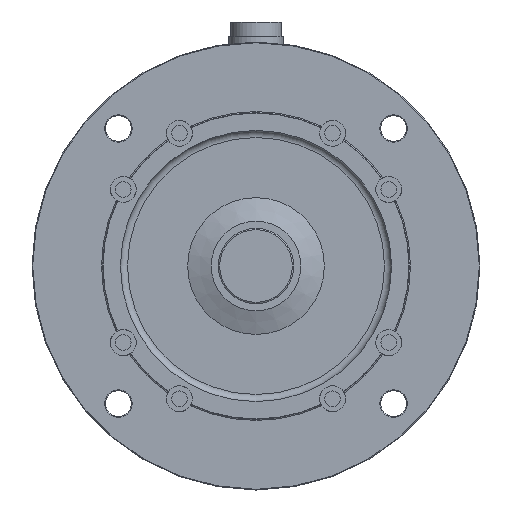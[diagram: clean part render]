
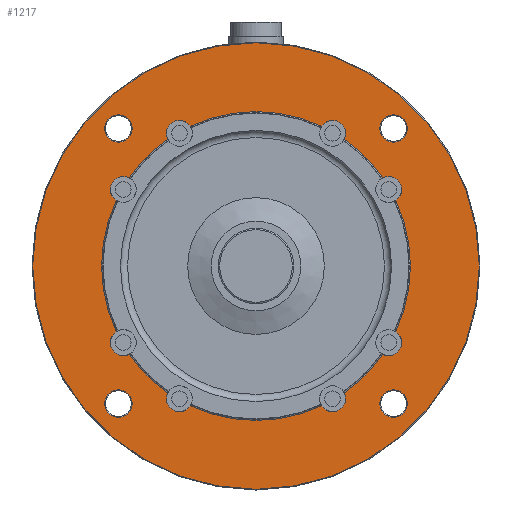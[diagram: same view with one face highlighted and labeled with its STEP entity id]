
A CAD part, front view. The second image highlights one B-rep face of the part: STEP entity #1217.
In plain terms, the highlighted planar face has unit normal (0, -1, 0).
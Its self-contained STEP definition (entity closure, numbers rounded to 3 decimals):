
#362=PLANE('',#4938);
#449=FACE_BOUND('',#1778,.T.);
#450=FACE_BOUND('',#1779,.T.);
#451=FACE_BOUND('',#1780,.T.);
#452=FACE_BOUND('',#1781,.T.);
#453=FACE_BOUND('',#1782,.T.);
#1217=ADVANCED_FACE('',(#449,#450,#451,#452,#453,#1556),#362,.T.);
#1556=FACE_OUTER_BOUND('',#1783,.T.);
#1778=EDGE_LOOP('',(#2418));
#1779=EDGE_LOOP('',(#2419));
#1780=EDGE_LOOP('',(#2420));
#1781=EDGE_LOOP('',(#2421));
#1782=EDGE_LOOP('',(#2422,#2423,#2424,#2425,#2426,#2427,#2428,#2429,#2430,
#2431,#2432,#2433,#2434,#2435,#2436,#2437));
#1783=EDGE_LOOP('',(#2438));
#2418=ORIENTED_EDGE('',*,*,#3971,.T.);
#2419=ORIENTED_EDGE('',*,*,#3972,.T.);
#2420=ORIENTED_EDGE('',*,*,#3973,.T.);
#2421=ORIENTED_EDGE('',*,*,#3974,.T.);
#2422=ORIENTED_EDGE('',*,*,#3975,.F.);
#2423=ORIENTED_EDGE('',*,*,#3914,.T.);
#2424=ORIENTED_EDGE('',*,*,#3976,.F.);
#2425=ORIENTED_EDGE('',*,*,#3977,.T.);
#2426=ORIENTED_EDGE('',*,*,#3978,.F.);
#2427=ORIENTED_EDGE('',*,*,#3955,.T.);
#2428=ORIENTED_EDGE('',*,*,#3979,.F.);
#2429=ORIENTED_EDGE('',*,*,#3935,.T.);
#2430=ORIENTED_EDGE('',*,*,#3980,.F.);
#2431=ORIENTED_EDGE('',*,*,#3960,.T.);
#2432=ORIENTED_EDGE('',*,*,#3981,.F.);
#2433=ORIENTED_EDGE('',*,*,#3948,.T.);
#2434=ORIENTED_EDGE('',*,*,#3982,.F.);
#2435=ORIENTED_EDGE('',*,*,#3926,.T.);
#2436=ORIENTED_EDGE('',*,*,#3983,.F.);
#2437=ORIENTED_EDGE('',*,*,#3938,.T.);
#2438=ORIENTED_EDGE('',*,*,#3984,.T.);
#3468=VERTEX_POINT('',#7221);
#3469=VERTEX_POINT('',#7222);
#3480=VERTEX_POINT('',#7281);
#3481=VERTEX_POINT('',#7282);
#3488=VERTEX_POINT('',#7347);
#3489=VERTEX_POINT('',#7349);
#3490=VERTEX_POINT('',#7386);
#3491=VERTEX_POINT('',#7388);
#3498=VERTEX_POINT('',#7440);
#3499=VERTEX_POINT('',#7442);
#3504=VERTEX_POINT('',#7488);
#3505=VERTEX_POINT('',#7490);
#3508=VERTEX_POINT('',#7518);
#3509=VERTEX_POINT('',#7519);
#3518=VERTEX_POINT('',#7575);
#3519=VERTEX_POINT('',#7577);
#3520=VERTEX_POINT('',#7579);
#3521=VERTEX_POINT('',#7581);
#3522=VERTEX_POINT('',#7584);
#3523=VERTEX_POINT('',#7586);
#3524=VERTEX_POINT('',#7594);
#3914=EDGE_CURVE('',#3468,#3469,#4471,.T.);
#3926=EDGE_CURVE('',#3480,#3481,#4477,.T.);
#3935=EDGE_CURVE('',#3489,#3488,#4481,.T.);
#3938=EDGE_CURVE('',#3491,#3490,#4482,.T.);
#3948=EDGE_CURVE('',#3499,#3498,#4486,.T.);
#3955=EDGE_CURVE('',#3505,#3504,#4489,.T.);
#3960=EDGE_CURVE('',#3508,#3509,#4491,.T.);
#3971=EDGE_CURVE('',#3518,#3518,#4500,.T.);
#3972=EDGE_CURVE('',#3519,#3519,#4501,.T.);
#3973=EDGE_CURVE('',#3520,#3520,#4502,.T.);
#3974=EDGE_CURVE('',#3521,#3521,#4503,.T.);
#3975=EDGE_CURVE('',#3468,#3490,#4504,.T.);
#3976=EDGE_CURVE('',#3522,#3469,#4505,.T.);
#3977=EDGE_CURVE('',#3522,#3523,#4506,.T.);
#3978=EDGE_CURVE('',#3505,#3523,#4507,.T.);
#3979=EDGE_CURVE('',#3489,#3504,#4508,.T.);
#3980=EDGE_CURVE('',#3508,#3488,#4509,.T.);
#3981=EDGE_CURVE('',#3499,#3509,#4510,.T.);
#3982=EDGE_CURVE('',#3480,#3498,#4511,.T.);
#3983=EDGE_CURVE('',#3491,#3481,#4512,.T.);
#3984=EDGE_CURVE('',#3524,#3524,#4513,.T.);
#4471=CIRCLE('',#4879,65.5);
#4477=CIRCLE('',#4888,65.5);
#4481=CIRCLE('',#4894,65.5);
#4482=CIRCLE('',#4896,65.5);
#4486=CIRCLE('',#4903,65.5);
#4489=CIRCLE('',#4908,65.5);
#4491=CIRCLE('',#4912,65.5);
#4500=CIRCLE('',#4924,5.8);
#4501=CIRCLE('',#4925,5.8);
#4502=CIRCLE('',#4926,5.8);
#4503=CIRCLE('',#4927,5.8);
#4504=CIRCLE('',#4928,5.5);
#4505=CIRCLE('',#4929,5.5);
#4506=CIRCLE('',#4930,65.5);
#4507=CIRCLE('',#4931,5.5);
#4508=CIRCLE('',#4932,5.5);
#4509=CIRCLE('',#4933,5.5);
#4510=CIRCLE('',#4934,5.5);
#4511=CIRCLE('',#4935,5.5);
#4512=CIRCLE('',#4936,5.5);
#4513=CIRCLE('',#4937,94.7);
#4879=AXIS2_PLACEMENT_3D('',#7220,#5621,#5622);
#4888=AXIS2_PLACEMENT_3D('',#7280,#5643,#5644);
#4894=AXIS2_PLACEMENT_3D('',#7348,#5657,#5658);
#4896=AXIS2_PLACEMENT_3D('',#7387,#5661,#5662);
#4903=AXIS2_PLACEMENT_3D('',#7441,#5679,#5680);
#4908=AXIS2_PLACEMENT_3D('',#7489,#5691,#5692);
#4912=AXIS2_PLACEMENT_3D('',#7517,#5701,#5702);
#4924=AXIS2_PLACEMENT_3D('',#7574,#5725,#5726);
#4925=AXIS2_PLACEMENT_3D('',#7576,#5727,#5728);
#4926=AXIS2_PLACEMENT_3D('',#7578,#5729,#5730);
#4927=AXIS2_PLACEMENT_3D('',#7580,#5731,#5732);
#4928=AXIS2_PLACEMENT_3D('',#7582,#5733,#5734);
#4929=AXIS2_PLACEMENT_3D('',#7583,#5735,#5736);
#4930=AXIS2_PLACEMENT_3D('',#7585,#5737,#5738);
#4931=AXIS2_PLACEMENT_3D('',#7587,#5739,#5740);
#4932=AXIS2_PLACEMENT_3D('',#7588,#5741,#5742);
#4933=AXIS2_PLACEMENT_3D('',#7589,#5743,#5744);
#4934=AXIS2_PLACEMENT_3D('',#7590,#5745,#5746);
#4935=AXIS2_PLACEMENT_3D('',#7591,#5747,#5748);
#4936=AXIS2_PLACEMENT_3D('',#7592,#5749,#5750);
#4937=AXIS2_PLACEMENT_3D('',#7593,#5751,#5752);
#4938=AXIS2_PLACEMENT_3D('',#7595,#5753,#5754);
#5621=DIRECTION('',(0.,1.,0.));
#5622=DIRECTION('',(0.,0.,-1.));
#5643=DIRECTION('',(0.,1.,0.));
#5644=DIRECTION('',(0.,0.,-1.));
#5657=DIRECTION('',(0.,1.,0.));
#5658=DIRECTION('',(0.,0.,-1.));
#5661=DIRECTION('',(0.,1.,0.));
#5662=DIRECTION('',(0.,0.,-1.));
#5679=DIRECTION('',(0.,1.,0.));
#5680=DIRECTION('',(0.,0.,-1.));
#5691=DIRECTION('',(0.,1.,0.));
#5692=DIRECTION('',(0.,0.,-1.));
#5701=DIRECTION('',(0.,1.,0.));
#5702=DIRECTION('',(0.,0.,-1.));
#5725=DIRECTION('',(0.,1.,0.));
#5726=DIRECTION('',(0.,0.,-1.));
#5727=DIRECTION('',(0.,1.,0.));
#5728=DIRECTION('',(0.,0.,-1.));
#5729=DIRECTION('',(0.,1.,0.));
#5730=DIRECTION('',(0.,0.,-1.));
#5731=DIRECTION('',(0.,1.,0.));
#5732=DIRECTION('',(0.,0.,-1.));
#5733=DIRECTION('',(0.,-1.,0.));
#5734=DIRECTION('',(0.,0.,-1.));
#5735=DIRECTION('',(0.,-1.,0.));
#5736=DIRECTION('',(0.,0.,-1.));
#5737=DIRECTION('',(0.,1.,0.));
#5738=DIRECTION('',(0.,0.,-1.));
#5739=DIRECTION('',(0.,-1.,0.));
#5740=DIRECTION('',(0.,0.,-1.));
#5741=DIRECTION('',(0.,-1.,0.));
#5742=DIRECTION('',(0.,0.,-1.));
#5743=DIRECTION('',(0.,-1.,0.));
#5744=DIRECTION('',(0.,0.,-1.));
#5745=DIRECTION('',(0.,-1.,0.));
#5746=DIRECTION('',(0.,0.,-1.));
#5747=DIRECTION('',(0.,-1.,0.));
#5748=DIRECTION('',(0.,0.,-1.));
#5749=DIRECTION('',(0.,-1.,0.));
#5750=DIRECTION('',(0.,0.,-1.));
#5751=DIRECTION('',(0.,-1.,0.));
#5752=DIRECTION('',(0.,0.,-1.));
#5753=DIRECTION('',(0.,-1.,0.));
#5754=DIRECTION('',(0.,0.,-1.));
#7220=CARTESIAN_POINT('',(0.,0.,0.));
#7221=CARTESIAN_POINT('',(59.272,0.,27.877));
#7222=CARTESIAN_POINT('',(59.272,0.,-27.877));
#7280=CARTESIAN_POINT('',(0.,0.,0.));
#7281=CARTESIAN_POINT('',(-27.877,0.,59.272));
#7282=CARTESIAN_POINT('',(27.877,0.,59.272));
#7347=CARTESIAN_POINT('',(-53.778,0.,-37.392));
#7348=CARTESIAN_POINT('',(0.,0.,0.));
#7349=CARTESIAN_POINT('',(-37.392,0.,-53.778));
#7386=CARTESIAN_POINT('',(53.778,0.,37.392));
#7387=CARTESIAN_POINT('',(0.,0.,0.));
#7388=CARTESIAN_POINT('',(37.392,0.,53.778));
#7440=CARTESIAN_POINT('',(-37.392,0.,53.778));
#7441=CARTESIAN_POINT('',(0.,0.,0.));
#7442=CARTESIAN_POINT('',(-53.778,0.,37.392));
#7488=CARTESIAN_POINT('',(-27.877,0.,-59.272));
#7489=CARTESIAN_POINT('',(0.,0.,0.));
#7490=CARTESIAN_POINT('',(27.877,0.,-59.272));
#7517=CARTESIAN_POINT('',(0.,0.,0.));
#7518=CARTESIAN_POINT('',(-59.272,0.,-27.877));
#7519=CARTESIAN_POINT('',(-59.272,0.,27.877));
#7574=CARTESIAN_POINT('',(-58.336,0.,-58.336));
#7575=CARTESIAN_POINT('',(-58.336,0.,-64.136));
#7576=CARTESIAN_POINT('',(58.336,0.,58.336));
#7577=CARTESIAN_POINT('',(58.336,0.,52.536));
#7578=CARTESIAN_POINT('',(-58.336,0.,58.336));
#7579=CARTESIAN_POINT('',(-58.336,0.,52.536));
#7580=CARTESIAN_POINT('',(58.336,0.,-58.336));
#7581=CARTESIAN_POINT('',(58.336,0.,-64.136));
#7582=CARTESIAN_POINT('',(56.292,0.,32.5));
#7583=CARTESIAN_POINT('',(56.292,0.,-32.5));
#7584=CARTESIAN_POINT('',(53.778,0.,-37.392));
#7585=CARTESIAN_POINT('',(0.,0.,0.));
#7586=CARTESIAN_POINT('',(37.392,0.,-53.778));
#7587=CARTESIAN_POINT('',(32.5,0.,-56.292));
#7588=CARTESIAN_POINT('',(-32.5,0.,-56.292));
#7589=CARTESIAN_POINT('',(-56.292,0.,-32.5));
#7590=CARTESIAN_POINT('',(-56.292,0.,32.5));
#7591=CARTESIAN_POINT('',(-32.5,0.,56.292));
#7592=CARTESIAN_POINT('',(32.5,0.,56.292));
#7593=CARTESIAN_POINT('',(0.,0.,0.));
#7594=CARTESIAN_POINT('',(0.,0.,-94.7));
#7595=CARTESIAN_POINT('',(0.,0.,0.));
